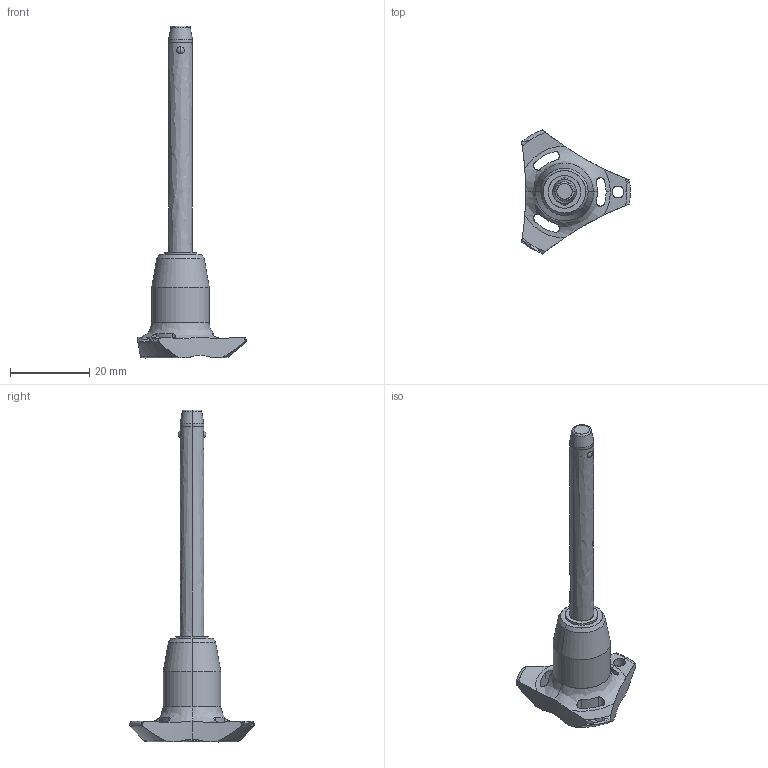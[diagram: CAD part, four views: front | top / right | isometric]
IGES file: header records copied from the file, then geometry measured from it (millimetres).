
Start section: SolidWorks IGES file using analytic representation for surfaces
Global section: file name: C:\Users\ianosborn\Desktop\QR1736_v2\QR1736_v2_20251115_IGES\QR1736.M06-050-T.igs; native system: SolidWorks 2019; preprocessor: SolidWorks 2019; author: IanOsborn; date: 251113.115242; units: millimetre
Bounding box: 27.4 x 31.31 x 83.7 mm (x, y, z)
Surface area: 3495.5 mm2 (no closed solid volume)
Topology: 0 solids, 0 shells, 69 faces, 1323 edges, 1304 vertices
Faces by surface type: revolution 52, bspline 17
